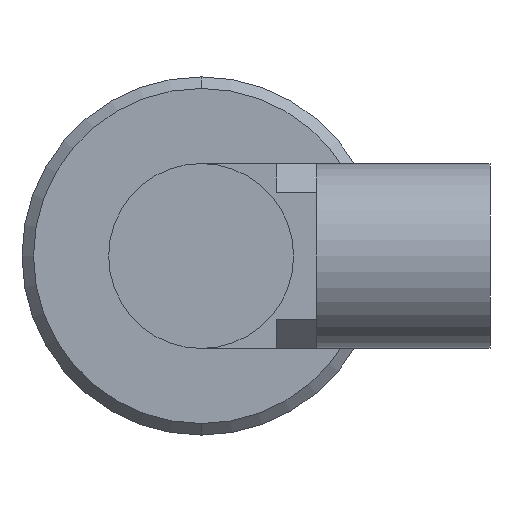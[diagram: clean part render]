
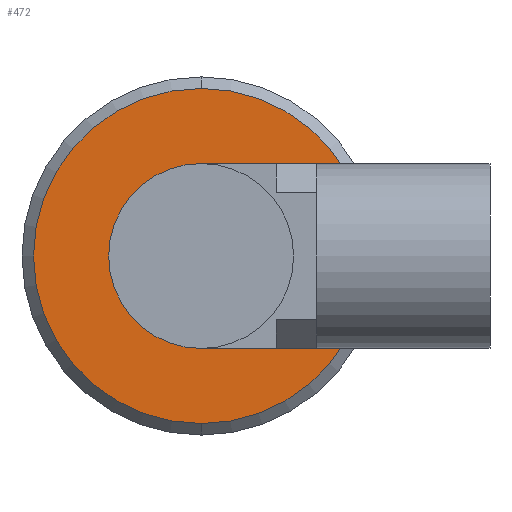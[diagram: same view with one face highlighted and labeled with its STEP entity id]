
A CAD part, left-side view. The second image highlights one B-rep face of the part: STEP entity #472.
In plain terms, the highlighted planar face has unit normal (-1, 0, 0).
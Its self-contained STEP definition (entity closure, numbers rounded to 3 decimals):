
#40 = DIRECTION ( 'NONE',  ( 1., 0., 0. ) ) ;
#111 = EDGE_CURVE ( 'NONE', #863, #567, #1599, .T. ) ;
#118 = CARTESIAN_POINT ( 'NONE',  ( 85., 0., 0. ) ) ;
#158 = CARTESIAN_POINT ( 'NONE',  ( 85., 0., 0. ) ) ;
#160 = ORIENTED_EDGE ( 'NONE', *, *, #1642, .T. ) ;
#162 = EDGE_CURVE ( 'NONE', #567, #863, #258, .T. ) ;
#169 = CARTESIAN_POINT ( 'NONE',  ( 85., 0., 0. ) ) ;
#224 = EDGE_LOOP ( 'NONE', ( #572, #160 ) ) ;
#246 = DIRECTION ( 'NONE',  ( 0., 0., 1. ) ) ;
#258 = CIRCLE ( 'NONE', #1535, 8. ) ;
#281 = DIRECTION ( 'NONE',  ( 0., 0., 1. ) ) ;
#294 = DIRECTION ( 'NONE',  ( 0., 0., 1. ) ) ;
#295 = CARTESIAN_POINT ( 'NONE',  ( 85., 0., -14.5 ) ) ;
#306 = FACE_OUTER_BOUND ( 'NONE', #224, .T. ) ;
#347 = CARTESIAN_POINT ( 'NONE',  ( 85., 0., 0. ) ) ;
#432 = ORIENTED_EDGE ( 'NONE', *, *, #111, .F. ) ;
#435 = EDGE_LOOP ( 'NONE', ( #432, #1608 ) ) ;
#472 = ADVANCED_FACE ( 'NONE', ( #1268, #306 ), #1419, .F. ) ;
#477 = DIRECTION ( 'NONE',  ( 0., 0., 1. ) ) ;
#497 = VERTEX_POINT ( 'NONE', #295 ) ;
#523 = VERTEX_POINT ( 'NONE', #1431 ) ;
#567 = VERTEX_POINT ( 'NONE', #1525 ) ;
#572 = ORIENTED_EDGE ( 'NONE', *, *, #824, .T. ) ;
#573 = AXIS2_PLACEMENT_3D ( 'NONE', #1558, #40, #926 ) ;
#824 = EDGE_CURVE ( 'NONE', #497, #523, #939, .T. ) ;
#863 = VERTEX_POINT ( 'NONE', #1291 ) ;
#926 = DIRECTION ( 'NONE',  ( 0., 0., -1. ) ) ;
#935 = CIRCLE ( 'NONE', #1559, 14.5 ) ;
#939 = CIRCLE ( 'NONE', #1134, 14.5 ) ;
#1002 = DIRECTION ( 'NONE',  ( -1., 0., 0. ) ) ;
#1035 = DIRECTION ( 'NONE',  ( -1., 0., 0. ) ) ;
#1049 = DIRECTION ( 'NONE',  ( -1., 0., 0. ) ) ;
#1134 = AXIS2_PLACEMENT_3D ( 'NONE', #158, #1035, #281 ) ;
#1190 = AXIS2_PLACEMENT_3D ( 'NONE', #118, #1002, #246 ) ;
#1223 = DIRECTION ( 'NONE',  ( -1., 0., 0. ) ) ;
#1268 = FACE_BOUND ( 'NONE', #435, .T. ) ;
#1291 = CARTESIAN_POINT ( 'NONE',  ( 85., 0., 8. ) ) ;
#1419 = PLANE ( 'NONE',  #573 ) ;
#1431 = CARTESIAN_POINT ( 'NONE',  ( 85., 0., 14.5 ) ) ;
#1525 = CARTESIAN_POINT ( 'NONE',  ( 85., 0., -8. ) ) ;
#1535 = AXIS2_PLACEMENT_3D ( 'NONE', #169, #1049, #294 ) ;
#1558 = CARTESIAN_POINT ( 'NONE',  ( 85., 14.5, 0. ) ) ;
#1559 = AXIS2_PLACEMENT_3D ( 'NONE', #347, #1223, #477 ) ;
#1599 = CIRCLE ( 'NONE', #1190, 8. ) ;
#1608 = ORIENTED_EDGE ( 'NONE', *, *, #162, .F. ) ;
#1642 = EDGE_CURVE ( 'NONE', #523, #497, #935, .T. ) ;
